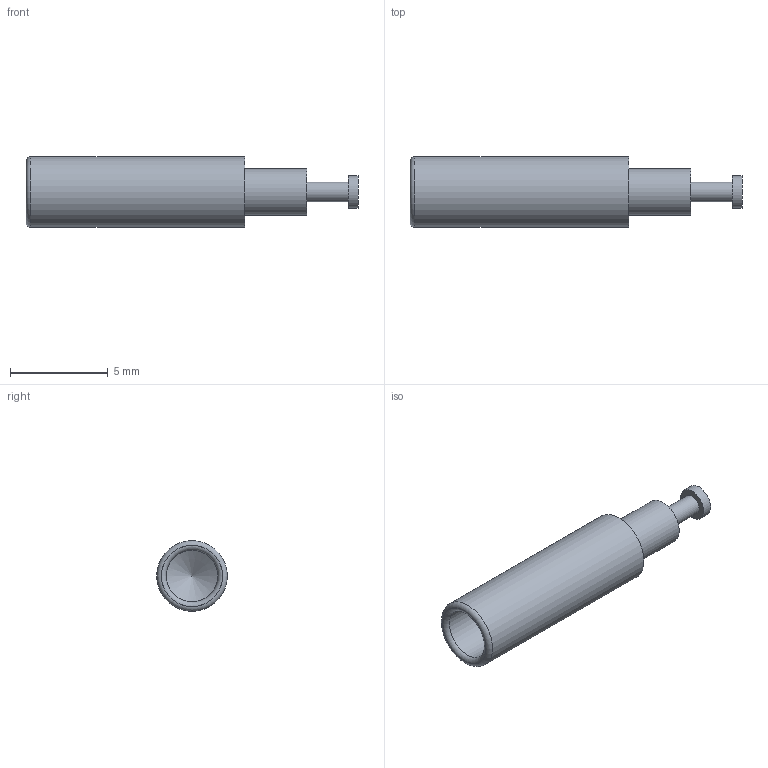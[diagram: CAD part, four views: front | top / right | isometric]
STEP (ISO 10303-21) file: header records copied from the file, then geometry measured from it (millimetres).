
FILE_DESCRIPTION(/* description */ (''),/* implementation_level */ '2;1');
FILE_NAME(/* name */ '\\Snap1\dwgs\Customer 3D Models\450\450-3754-03 Customer model.stp',/* time_stamp */ '2016-12-20T17:19:45+00:00',/* author */ ('paulk'),/* organization */ (''),/* preprocessor_version */ 'ST-DEVELOPER v15.2',/* originating_system */ 'Autodesk Inventor 2014',/* authorisation */ '');
FILE_SCHEMA (('CONFIG_CONTROL_DESIGN'));
Length unit declared in the file: millimetre
Products named in the file (1): 450-3754-03 Customer model
Bounding box: 16.97 x 3.61 x 3.61 mm (x, y, z)
Volume: 75.3 mm3; surface area: 265.4 mm2
Topology: 1 solids, 1 shells, 13 faces, 22 edges, 13 vertices
Faces by surface type: cylinder 5, plane 4, torus 2, cone 2
Full cylindrical faces by diameter (mm): 1.016 x1, 1.676 x1, 2.362 x1, 2.642 x1, 3.607 x1
Entity records: 275 total; most frequent: DIRECTION 52, CARTESIAN_POINT 38, AXIS2_PLACEMENT_3D 26, EDGE_LOOP 24, ORIENTED_EDGE 24, ADVANCED_FACE 13, FACE_BOUND 12, FACE_OUTER_BOUND 12
